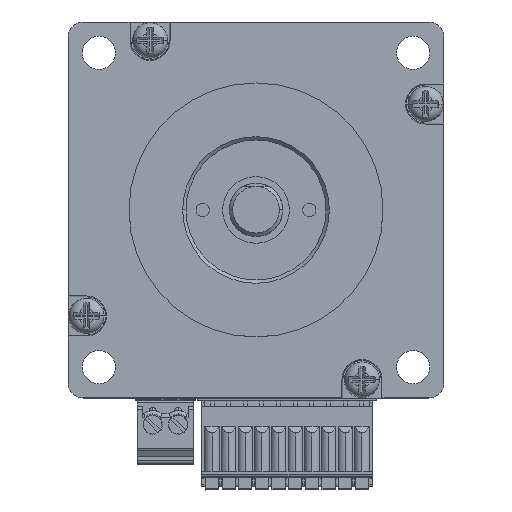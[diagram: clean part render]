
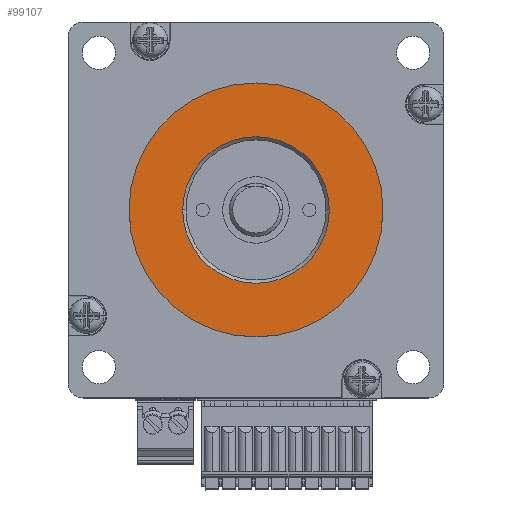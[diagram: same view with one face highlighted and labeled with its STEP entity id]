
A CAD part, top view. The second image highlights one B-rep face of the part: STEP entity #99107.
In plain terms, the highlighted planar face has unit normal (0, 0, 1).
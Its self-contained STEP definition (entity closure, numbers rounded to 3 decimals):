
#8239 = AXIS2_PLACEMENT_3D ( 'NONE', #93222, #229157, #226691 ) ;
#8703 = DIRECTION ( 'NONE',  ( 0., 0., 1. ) ) ;
#10652 = EDGE_CURVE ( 'NONE', #54555, #130876, #205502, .T. ) ;
#12080 = EDGE_LOOP ( 'NONE', ( #16116, #49876 ) ) ;
#15272 = PLANE ( 'NONE',  #40083 ) ;
#16116 = ORIENTED_EDGE ( 'NONE', *, *, #239066, .F. ) ;
#28211 = DIRECTION ( 'NONE',  ( 1., 0., 0. ) ) ;
#30872 = CIRCLE ( 'NONE', #202176, 11. ) ;
#35974 = EDGE_LOOP ( 'NONE', ( #168689, #189087 ) ) ;
#40083 = AXIS2_PLACEMENT_3D ( 'NONE', #189784, #245902, #73820 ) ;
#45285 = AXIS2_PLACEMENT_3D ( 'NONE', #68122, #201556, #28211 ) ;
#48600 = DIRECTION ( 'NONE',  ( 0., 0., 1. ) ) ;
#49876 = ORIENTED_EDGE ( 'NONE', *, *, #182266, .F. ) ;
#54555 = VERTEX_POINT ( 'NONE', #105051 ) ;
#68122 = CARTESIAN_POINT ( 'NONE',  ( 0., 0., 1.6 ) ) ;
#73820 = DIRECTION ( 'NONE',  ( 1., 0., 0. ) ) ;
#74545 = VERTEX_POINT ( 'NONE', #129230 ) ;
#76153 = VERTEX_POINT ( 'NONE', #157454 ) ;
#93222 = CARTESIAN_POINT ( 'NONE',  ( 0., 0., 1.6 ) ) ;
#95017 = FACE_BOUND ( 'NONE', #12080, .T. ) ;
#99107 = ADVANCED_FACE ( 'NONE', ( #95017, #206104 ), #15272, .T. ) ;
#105051 = CARTESIAN_POINT ( 'NONE',  ( 19.05, 0., 1.6 ) ) ;
#105922 = AXIS2_PLACEMENT_3D ( 'NONE', #182054, #48600, #239383 ) ;
#129230 = CARTESIAN_POINT ( 'NONE',  ( -11., 0., 1.6 ) ) ;
#130876 = VERTEX_POINT ( 'NONE', #203979 ) ;
#139660 = DIRECTION ( 'NONE',  ( 1., 0., 0. ) ) ;
#142124 = CARTESIAN_POINT ( 'NONE',  ( 0., 0., 1.6 ) ) ;
#152853 = CIRCLE ( 'NONE', #45285, 19.05 ) ;
#157454 = CARTESIAN_POINT ( 'NONE',  ( 11., 0., 1.6 ) ) ;
#163685 = CIRCLE ( 'NONE', #8239, 11. ) ;
#168689 = ORIENTED_EDGE ( 'NONE', *, *, #173220, .T. ) ;
#173220 = EDGE_CURVE ( 'NONE', #130876, #54555, #152853, .T. ) ;
#182054 = CARTESIAN_POINT ( 'NONE',  ( 0., 0., 1.6 ) ) ;
#182266 = EDGE_CURVE ( 'NONE', #74545, #76153, #30872, .T. ) ;
#189087 = ORIENTED_EDGE ( 'NONE', *, *, #10652, .T. ) ;
#189784 = CARTESIAN_POINT ( 'NONE',  ( 0., 0., 1.6 ) ) ;
#201556 = DIRECTION ( 'NONE',  ( 0., 0., 1. ) ) ;
#202176 = AXIS2_PLACEMENT_3D ( 'NONE', #142124, #8703, #139660 ) ;
#203979 = CARTESIAN_POINT ( 'NONE',  ( -19.05, 0., 1.6 ) ) ;
#205502 = CIRCLE ( 'NONE', #105922, 19.05 ) ;
#206104 = FACE_OUTER_BOUND ( 'NONE', #35974, .T. ) ;
#226691 = DIRECTION ( 'NONE',  ( 1., 0., 0. ) ) ;
#229157 = DIRECTION ( 'NONE',  ( 0., 0., 1. ) ) ;
#239066 = EDGE_CURVE ( 'NONE', #76153, #74545, #163685, .T. ) ;
#239383 = DIRECTION ( 'NONE',  ( 1., 0., 0. ) ) ;
#245902 = DIRECTION ( 'NONE',  ( 0., 0., 1. ) ) ;
